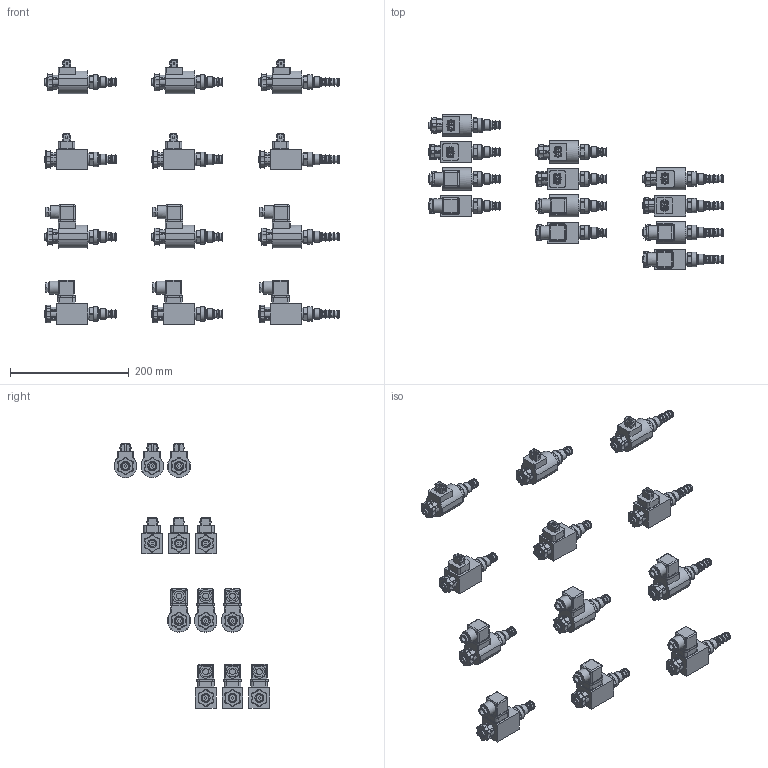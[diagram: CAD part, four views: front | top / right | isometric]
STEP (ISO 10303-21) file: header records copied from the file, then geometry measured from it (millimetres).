
FILE_DESCRIPTION(('Bauteilbeschreibung','HiCAD-Model','HiCAD-STEP-TRANSLATION','Bauteilbeschreibung'),'2;1');
FILE_NAME('C:/_EIGENE_DATEN/SDSPM18_35_4306.STP','2008-01-07T15:03:54+00:00',('Konstrukteur'),('Konstrukteur Firma GmbH'),' HiCAD neXt 2007, Step 3.1.1212.3C ','HiCAD neXt 2007','confidential');
FILE_SCHEMA(('AUTOMOTIVE_DESIGN { 1 2 10303 214 0 1 1 1 }'));
Products named in the file (103): SDSPM18_35_4306; SDSPM18_AB_MD35; D3391070; A63AA4F1; AEE7E072; A1C76AFB; CA9517B3; CA9517B30; DICHTUNG; F134825D; D82DEE49; A1C561DA; SDSPM18_AB_KD35; A2954663; A63AA4F10; F134825D0; D82DEE490; A19231C5; A4EFC39F; SDSPM18_AB_KJ35; A3088752; F134825D1; A4EFC39F0; E0494762; A63AA4F11; SDSPM18_AB_MJ35; A40923E5; A63AA4F12; F134825D2; AE7CA055; A1C76AFB0; BA6B5821; BA6B58210; DICHTUNG0; A1C561DA0; SDSPM18_BA_MD35; E4FCCA6B; AEE7E0720; A1C76AFB1; CA9517B31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
Assembly tree (102 placements, depth 6):
  SDSPM18_35_4306
    SDSPM18_AB_MD35
      D3391070
        A63AA4F1
        AEE7E072
          A1C76AFB
          CA9517B3
          CA9517B30
            DICHTUNG
        F134825D
        D82DEE49
        A1C561DA
    SDSPM18_AB_KD35
      A2954663
        A63AA4F10
        F134825D0
        D82DEE490
        A19231C5
        A4EFC39F
    SDSPM18_AB_KJ35
      A3088752
        F134825D1
        A4EFC39F0
        E0494762
        A63AA4F11
    SDSPM18_AB_MJ35
      A40923E5
        A63AA4F12
        F134825D2
        AE7CA055
          A1C76AFB0
          BA6B5821
          BA6B58210
            DICHTUNG0
        A1C561DA0
    SDSPM18_BA_MD35
      E4FCCA6B
        AEE7E0720
          A1C76AFB1
          CA9517B31
          CA9517B32
            DICHTUNG1
        F134825D3
        D82DEE491
        A1C561DA1
        A83072D5
    SDSPM18_BA_KD35
      A30CF323
        F134825D4
        D82DEE492
        A4EFC39F1
        A19231C50
        A83072D50
    SDSPM18_BA_KJ35
      A1538798
        F134825D5
        A4EFC39F2
        E04947620
        A83072D51
    SDSPM18_BA_MJ35
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Bounding box: 497.3 x 261.25 x 445.5 mm (x, y, z)
Volume: 1125324.7 mm3; surface area: 319643.2 mm2
Topology: 78 solids, 78 shells, 4003 faces, 10079 edges, 6564 vertices
Faces by surface type: plane 1973, cylinder 1594, torus 282, cone 130, sphere 24
Full cylindrical faces by diameter (mm): 1.5 x22, 2 x72, 2.5 x16, 3 x18, 6.8 x12, 8 x28, 9 x4, 9.5 x4, 10 x6, 10.6 x4, 11 x12, 12 x8, 12.1 x12, 12.5 x8, 13 x4, 13.5 x8, 14.92 x6, 15 x44, 16 x14, 16.1 x12, 16.3 x12, 18 x12, 20 x24, 21 x12, 22 x6, 23.6 x3, 24.5 x12
Entity records: 225756 total; most frequent: CARTESIAN_POINT 51127, DIRECTION 20792, ORIENTED_EDGE 18276, COLOUR_RGB 13207, PRESENTATION_STYLE_ASSIGNMENT 13207, OVER_RIDING_STYLED_ITEM 13141, CURVE_STYLE 9138, DRAUGHTING_PRE_DEFINED_CURVE_FONT 9138
